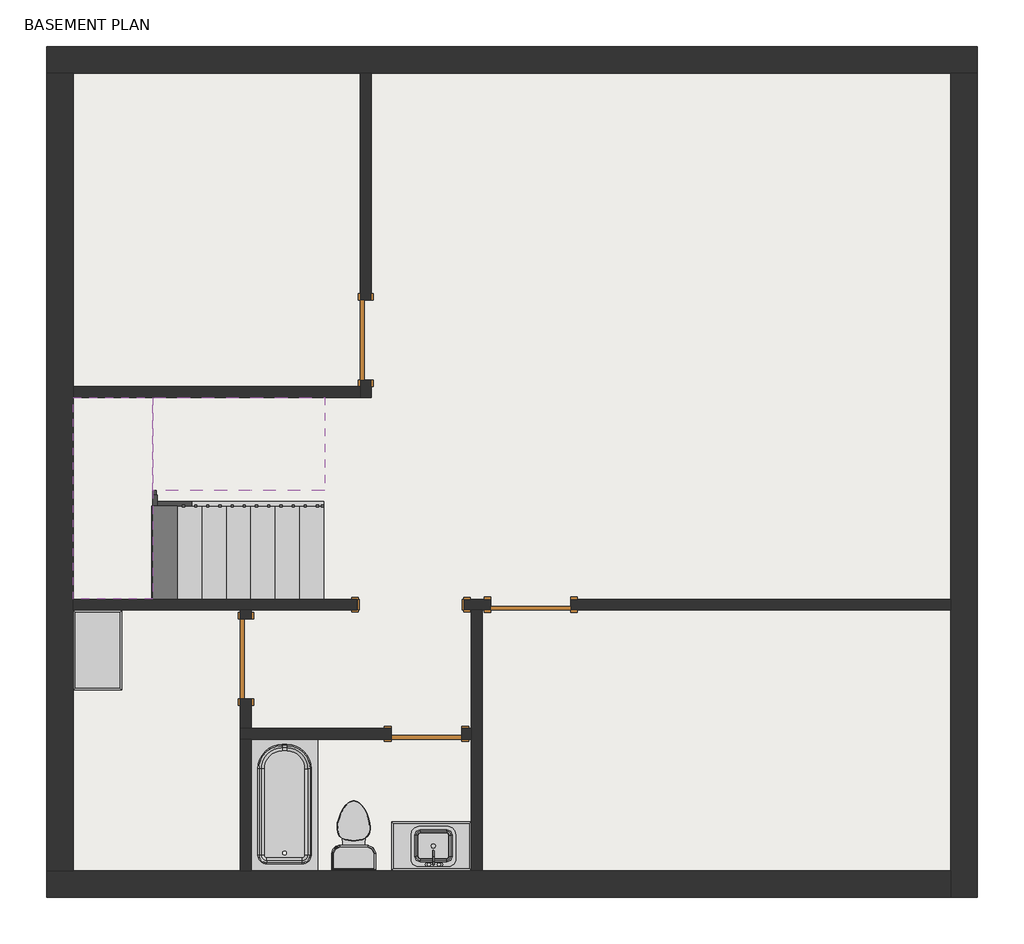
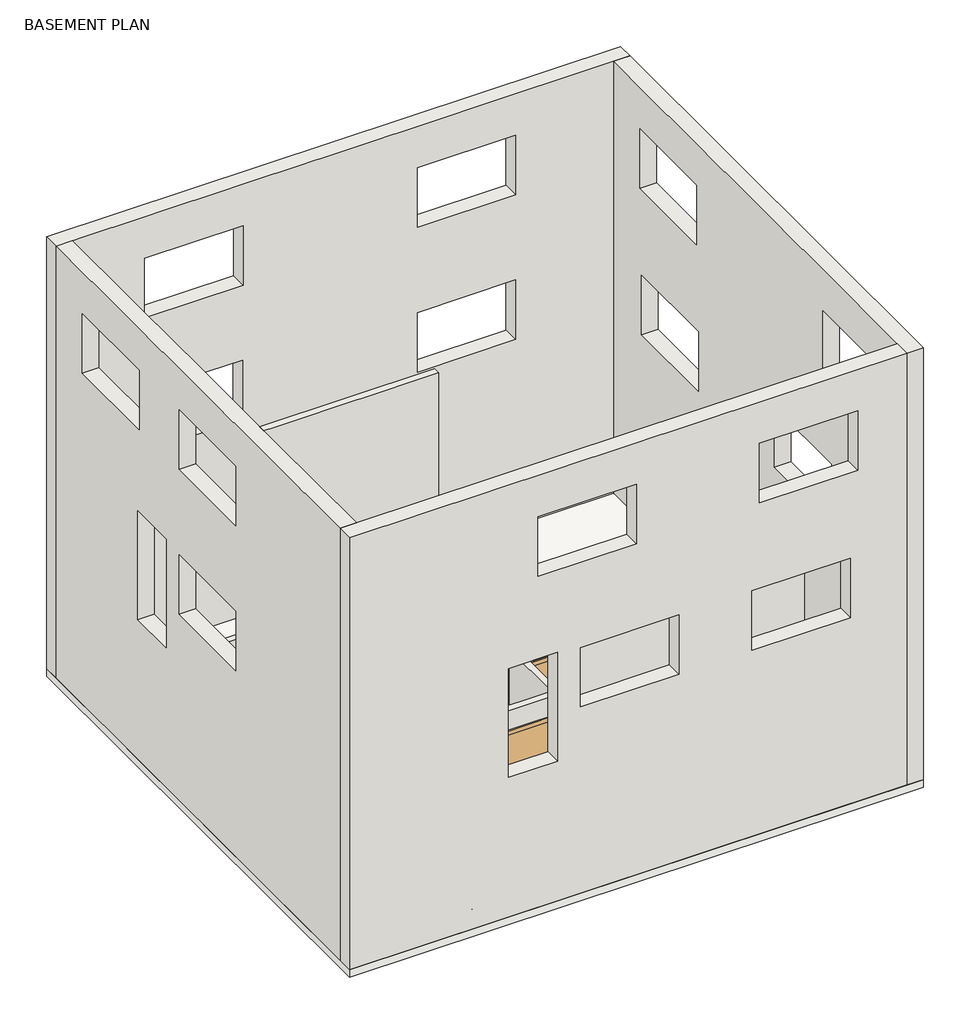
# One storey, incomplete: 13 walls, 5 doors, 3 flow terminals, 3 members, 2 furniture elements, 2 slabs, 2 stair flights, 1 railing.
"""IFC4 building model written with IfcOpenShell, lengths in millimetres."""

from ifc_helpers import new_model, si_unit, frame, origin, place, context, project, spatial, polyline, outline, extrude, faceted_brep, transform, mapped, element, save
from components import door_9efeaa18, door_9ecb6357, m_single_flush_3_x_7_d4803db9, m_single_flush_3_x_7_38056b6e, flow_terminal_62a433f7, toilet_domestic_3d1_toilet_domestic_3d_f7549cf7, toilet_domestic_3d1_toilet_domestic_3d_183bbd19, tub_rectangular_3d_tub_rectangular_5_7cde22e7, sb02_sb2_36_93bd8c5c, sb02_sb2_36_312036f5, railing_1100mm_33f3b1c9, non_monolithic_landing_ebfebc9d, stair_flight_a305efe2, stair_flight_e66c2ff5

model = new_model("IFC4")

# Units and contexts
model_context = context("Model", 3, world=origin())
ifc_project = project(units=[si_unit("LENGTHUNIT", "METRE", prefix="MILLI")], contexts=[model_context])

# Site, building, storey
site = spatial("IfcSite", under=ifc_project)
building = spatial("IfcBuilding", under=site)
storey = spatial("IfcBuildingStorey", under=building, Name="BASEMENT PLAN", Elevation=-2743.2)

# Doors
placement = place(None, origin())
door_shape = door_9efeaa18(model_context)
element("IfcDoor", 1, ObjectType="M_Opening-Cased : 4'-0\"", at=placement, inside=storey, context=model_context, shape_type="MappedRepresentation", body=[
    mapped(door_shape, transform((15331.0618231, 7304.6490306, -2743.2), x_axis=(-1.0, 0.0, 0.0), y_axis=(0.0, -1.0, 0.0), z_axis=(0.0, 0.0, 1.0))),
])
door_2_shape = door_9ecb6357(model_context)
element("IfcDoor", 2, ObjectType="M_Single-Flush : 2'-8\"", at=placement, inside=storey, context=model_context, shape_type="MappedRepresentation", body=[
    mapped(door_2_shape, transform((15518.6615275, 5825.0990306, -2743.2), x_axis=(1.0, 0.0, 0.0), y_axis=(0.0, 1.0, 0.0), z_axis=(0.0, 0.0, 1.0))),
])
m_single_flush_3_x_7_shape = m_single_flush_3_x_7_d4803db9(model_context)
element("IfcDoor", 3, ObjectType="M_Single-Flush : 3' x 7'", at=placement, inside=storey, context=model_context, shape_type="MappedRepresentation", body=[
    mapped(m_single_flush_3_x_7_shape, transform((13448.5379798, 6683.9365306, -2743.2), x_axis=(0.0, 1.0, 0.0), y_axis=(-1.0, 0.0, 0.0), z_axis=(0.0, 0.0, 1.0))),
])
m_single_flush_3_x_7_2_shape = m_single_flush_3_x_7_38056b6e(model_context)
element("IfcDoor", 4, ObjectType="M_Single-Flush : 3' x 7'", at=placement, inside=storey, context=model_context, shape_type="MappedRepresentation", body=[
    mapped(m_single_flush_3_x_7_2_shape, transform((14821.7254798, 10338.3615306, -2743.2), x_axis=(0.0, -1.0, 0.0), y_axis=(1.0, 0.0, 0.0), z_axis=(0.0, 0.0, 1.0))),
])
element("IfcDoor", 5, ObjectType="M_Single-Flush : 3' x 7'", at=placement, inside=storey, context=model_context, shape_type="MappedRepresentation", body=[
    mapped(m_single_flush_3_x_7_shape, transform((16712.4379798, 7304.6490306, -2743.2), x_axis=(-1.0, 0.0, 0.0), y_axis=(0.0, -1.0, 0.0), z_axis=(0.0, 0.0, 1.0))),
])

# Flow terminals
flow_terminal_shape = flow_terminal_62a433f7(model_context)
element("IfcFlowTerminal", 6, ObjectType="Sink Vanity-Square : 20\" x 18\"", at=placement, inside=storey, context=model_context, shape_type="MappedRepresentation", body=[
    mapped(flow_terminal_shape, transform((15613.0155818, 4487.7944318, -2743.2), x_axis=(-1.0, 0.0, 0.0), y_axis=(0.0, -1.0, 0.0), z_axis=(0.0, 0.0, 1.0))),
])
toilet_domestic_3d1_toilet_domestic_3d_shape = toilet_domestic_3d1_toilet_domestic_3d_f7549cf7(model_context)
toilet_domestic_3d1_toilet_domestic_3d_2_shape = toilet_domestic_3d1_toilet_domestic_3d_183bbd19(model_context)
element("IfcFlowTerminal", 7, ObjectType="Toilet-Domestic-3D1 : Toilet-Domestic-3D", at=placement, inside=storey, context=model_context, shape_type="MappedRepresentation", body=[
    mapped(toilet_domestic_3d1_toilet_domestic_3d_shape, transform((14683.8939344, 4751.345058, -2743.2), x_axis=(-1.0, 0.0, 0.0), y_axis=(0.0, -1.0, 0.0), z_axis=(0.0, 0.0, 1.0))),
    mapped(toilet_domestic_3d1_toilet_domestic_3d_2_shape, transform((14683.8939344, 4751.345058, -2743.2), x_axis=(-1.0, 0.0, 0.0), y_axis=(0.0, -1.0, 0.0), z_axis=(0.0, 0.0, 1.0))),
])
tub_rectangular_3d_tub_rectangular_5_shape = tub_rectangular_3d_tub_rectangular_5_7cde22e7(model_context)
element("IfcFlowTerminal", 8, ObjectType="Tub-Rectangular-3D : Tub-Rectangular- 5'", at=placement, inside=storey, context=model_context, shape_type="MappedRepresentation", body=[
    mapped(tub_rectangular_3d_tub_rectangular_5_shape, transform((13448.5379798, 5367.2519993, -2743.2), x_axis=(0.0, 1.0, 0.0), y_axis=(-1.0, 0.0, 0.0), z_axis=(0.0, 0.0, 1.0))),
])

# Furniture
sb02_sb2_36_shape = sb02_sb2_36_93bd8c5c(model_context)
element("IfcFurniture", 9, ObjectType="SB02 : SB2-36", at=placement, inside=storey, context=model_context, shape_type="MappedRepresentation", body=[
    mapped(sb02_sb2_36_shape, transform((12027.9254798, 6804.2742356, -2743.2), x_axis=(0.0, -1.0, 0.0), y_axis=(1.0, 0.0, 0.0), z_axis=(0.0, 0.0, 1.0))),
])
sb02_sb2_36_2_shape = sb02_sb2_36_312036f5(model_context)
element("IfcFurniture", 10, ObjectType="SB02 : SB2-36", at=placement, inside=storey, context=model_context, shape_type="MappedRepresentation", body=[
    mapped(sb02_sb2_36_2_shape, transform((15595.0640462, 4815.6490306, -2743.2), x_axis=(-1.0, 0.0, 0.0), y_axis=(0.0, -1.0, 0.0), z_axis=(0.0, 0.0, 1.0))),
])

# Members
element("IfcMember", 11, ObjectType="Stringer - 2\" Width", at=placement, inside=storey, context=model_context, shape_type="SweptSolid", body=[
    extrude(outline(polyline([(-2743.2, 14339.1254798), (-2501.4287172, 14339.1254798), (-1295.5701314, 12434.1254798), (-1776.5466754, 12434.1254798), (-2743.2, 13961.2320618), (-2743.2, 14339.1254798)])), frame((0.0, 8436.5365306, 0.0), z_axis=(0.0, 1.0, 0.0), x_axis=(0.0, 0.0, 1.0)), (0.0, 0.0, 1.0), 50.8),
])
element("IfcMember", 12, ObjectType="Stringer - 2\" Width", at=placement, inside=storey, context=model_context, shape_type="SweptSolid", body=[
    extrude(outline(polyline([(-1086.5546432, 12383.3254798), (-1567.5311872, 12383.3254798), (-329.5163724, 14339.1254798), (151.4601717, 14339.1254798), (-1086.5546432, 12383.3254798)])), frame((0.0, 8563.5365306, 0.0), z_axis=(0.0, 1.0, 0.0), x_axis=(0.0, 0.0, 1.0)), (0.0, 0.0, 1.0), 50.8),
])
element("IfcMember", 13, ObjectType="Stringer - 2\" Width", at=placement, inside=storey, context=model_context, shape_type="SweptSolid", body=[
    extrude(outline(polyline([(12434.1254798, 8436.5365306), (12383.3254798, 8436.5365306), (12383.3254798, 8563.5365306), (12434.1254798, 8563.5365306), (12434.1254798, 8436.5365306)])), frame((0.0, 0.0, -1683.9259259), z_axis=(0.0, 0.0, 1.0), x_axis=(1.0, 0.0, 0.0)), (0.0, 0.0, 1.0), 406.4),
])

# Railing
railing_1100mm_shape = railing_1100mm_33f3b1c9(model_context)
element("IfcRailing", 14, ObjectType="1100mm", at=placement, inside=storey, context=model_context, shape_type="MappedRepresentation", body=[
    mapped(railing_1100mm_shape, transform((0.0, 0.0, 0.0), x_axis=(1.0, 0.0, 0.0), y_axis=(0.0, 1.0, 0.0), z_axis=(0.0, 0.0, 1.0))),
])

# Slabs
element("IfcSlab", 15, ObjectType="MultiFamilyGeneric", at=placement, inside=storey, context=model_context, shape_type="SweptSolid", body=[
    extrude(outline(polyline([(21832.1254798, 13705.4490306), (21832.1254798, 3951.8490306), (11164.1254798, 3951.8490306), (11164.1254798, 13705.4490306), (21832.1254798, 13705.4490306)])), frame((0.0, 0.0, -2895.6), z_axis=(0.0, 0.0, 1.0), x_axis=(1.0, 0.0, 0.0)), (0.0, 0.0, 1.0), 152.4),
])
non_monolithic_landing_shape = non_monolithic_landing_ebfebc9d(model_context)
element("IfcSlab", 16, ObjectType="Non-Monolithic Landing", at=placement, inside=storey, context=model_context, shape_type="MappedRepresentation", body=[
    mapped(non_monolithic_landing_shape, transform((0.0, 0.0, 0.0), x_axis=(1.0, 0.0, 0.0), y_axis=(0.0, 1.0, 0.0), z_axis=(0.0, 0.0, 1.0))),
])

# Stair flights
stair_flight_shape = stair_flight_a305efe2(model_context)
element("IfcStairFlight", 17, ObjectType="2\" Tread 1/2\" Riser", at=placement, inside=storey, context=model_context, shape_type="MappedRepresentation", body=[
    mapped(stair_flight_shape, transform((0.0, 0.0, 0.0), x_axis=(1.0, 0.0, 0.0), y_axis=(0.0, 1.0, 0.0), z_axis=(0.0, 0.0, 1.0))),
])
stair_flight_2_shape = stair_flight_e66c2ff5(model_context)
element("IfcStairFlight", 18, ObjectType="2\" Tread 1/2\" Riser", at=placement, inside=storey, context=model_context, shape_type="MappedRepresentation", body=[
    mapped(stair_flight_2_shape, transform((0.0, 0.0, 0.0), x_axis=(1.0, 0.0, 0.0), y_axis=(0.0, 1.0, 0.0), z_axis=(0.0, 0.0, 1.0))),
])

# Walls
element("IfcWall", 19, ObjectType="Generic - 4 7/8\"", at=placement, inside=storey, context=model_context, shape_type="Brep", body=[
    faceted_brep([(14883.6379798, 9681.1365306, -2743.2), (14883.6379798, 9881.1615306, -2743.2), (14883.6379798, 9881.1615306, -609.6), (14883.6379798, 10795.5615306, -609.6), (14883.6379798, 10795.5615306, -2743.2), (14883.6379798, 13400.6490306, -2743.2), (14883.6379798, 13400.6490306, -152.4), (14883.6379798, 9681.1365306, -152.4), (14759.8129798, 9881.1615306, -609.6), (14759.8129798, 9881.1615306, -2743.2), (14759.8129798, 9804.9615306, -2743.2), (14759.8129798, 9681.1365306, -2743.2), (14759.8129798, 9681.1365306, -152.4), (14759.8129798, 9804.9615306, -152.4), (14759.8129798, 13400.6490306, -152.4), (14759.8129798, 13400.6490306, -2743.2), (14759.8129798, 10795.5615306, -2743.2), (14759.8129798, 10795.5615306, -609.6)], [[[0, 1, 2, 3, 4, 5, 6, 7]], [[8, 9, 10, 11, 12, 13, 14, 15, 16, 17]], [[16, 15, 5, 4]], [[11, 10, 9, 1, 0]], [[6, 5, 15, 14]], [[0, 7, 12, 11]], [[2, 1, 9, 8]], [[3, 2, 8, 17]], [[4, 3, 17, 16]], [[7, 6, 14, 13, 12]]]),
])
element("IfcWall", 20, ObjectType="Generic - 4 7/8\"", at=placement, inside=storey, context=model_context, shape_type="Brep", body=[
    faceted_brep([(21527.3254798, 7242.7365306, -2743.2), (21527.3254798, 7242.7365306, -152.4), (16157.3513413, 7242.7365306, -152.4), (16033.5263413, 7242.7365306, -152.4), (15649.3277936, 7242.7365306, -152.4), (15649.3277936, 7242.7365306, -609.6), (15948.8504798, 7242.7365306, -609.6), (15948.8504798, 7242.7365306, -2743.2), (16033.5263413, 7242.7365306, -2743.2), (16157.3513413, 7242.7365306, -2743.2), (16255.2379798, 7242.7365306, -2743.2), (16255.2379798, 7242.7365306, -609.6), (17169.6379798, 7242.7365306, -609.6), (17169.6379798, 7242.7365306, -2743.2), (21527.3254798, 7366.5615306, -152.4), (21527.3254798, 7366.5615306, -2743.2), (17169.6379798, 7366.5615306, -2743.2), (17169.6379798, 7366.5615306, -609.6), (16255.2379798, 7366.5615306, -609.6), (16255.2379798, 7366.5615306, -2743.2), (15948.8504798, 7366.5615306, -2743.2), (15948.8504798, 7366.5615306, -609.6), (15649.3277936, 7366.5615306, -609.6), (15649.3277936, 7366.5615306, -152.4)], [[[0, 1, 2, 3, 4, 5, 6, 7, 8, 9, 10, 11, 12, 13]], [[14, 15, 16, 17, 18, 19, 20, 21, 22, 23]], [[15, 0, 13, 16]], [[19, 10, 9, 8, 7, 20]], [[4, 23, 22, 5]], [[1, 0, 15, 14]], [[11, 10, 19, 18]], [[12, 11, 18, 17]], [[13, 12, 17, 16]], [[6, 21, 20, 7]], [[21, 6, 5, 22]], [[4, 3, 2, 1, 14, 23]]]),
])
element("IfcWall", 21, ObjectType="Generic - 4 7/8\"", at=placement, inside=storey, context=model_context, shape_type="Brep", body=[
    faceted_brep([(11468.9254798, 9681.1365306, -2743.2), (14759.8129798, 9681.1365306, -2743.2), (14759.8129798, 9681.1365306, -152.4), (14339.1254798, 9681.1365306, -152.4), (11468.9254798, 9681.1365306, -152.4), (11468.9254798, 9804.9615306, -2743.2), (11468.9254798, 9804.9615306, -152.4), (14759.8129798, 9804.9615306, -152.4), (14759.8129798, 9804.9615306, -2743.2)], [[[0, 1, 2, 3, 4]], [[5, 6, 7, 8]], [[1, 0, 5, 8]], [[0, 4, 6, 5]], [[2, 1, 8, 7]], [[4, 3, 2, 7, 6]]]),
])
element("IfcWall", 22, ObjectType="Generic - 4 7/8\"", at=placement, inside=storey, context=model_context, shape_type="Brep", body=[
    faceted_brep([(15925.0615275, 5763.1865306, -609.6), (15925.0615275, 5763.1865306, -2743.2), (16033.5263413, 5763.1865306, -2743.2), (16033.5263413, 5763.1865306, -152.4), (13510.4504798, 5763.1865306, -152.4), (13386.6254798, 5763.1865306, -152.4), (13386.6254798, 5763.1865306, -2743.2), (13510.4504798, 5763.1865306, -2743.2), (15112.2615275, 5763.1865306, -2743.2), (15112.2615275, 5763.1865306, -609.6), (16033.5263413, 5887.0115306, -2743.2), (15925.0615275, 5887.0115306, -2743.2), (15925.0615275, 5887.0115306, -609.6), (15112.2615275, 5887.0115306, -609.6), (15112.2615275, 5887.0115306, -2743.2), (13510.4504798, 5887.0115306, -2743.2), (13386.6254798, 5887.0115306, -2743.2), (13386.6254798, 5887.0115306, -152.4), (13510.4504798, 5887.0115306, -152.4), (16033.5263413, 5887.0115306, -152.4)], [[[0, 1, 2, 3, 4, 5, 6, 7, 8, 9]], [[10, 11, 12, 13, 14, 15, 16, 17, 18, 19]], [[2, 1, 11, 10]], [[8, 7, 6, 16, 15, 14]], [[12, 11, 1, 0]], [[13, 12, 0, 9]], [[14, 13, 9, 8]], [[3, 2, 10, 19]], [[6, 5, 17, 16]], [[5, 4, 3, 19, 18, 17]]]),
])
element("IfcWall", 23, ObjectType="Generic - 4 7/8\"", at=placement, inside=storey, context=model_context, shape_type="Brep", body=[
    faceted_brep([(16033.5263413, 7242.7365306, -2743.2), (16033.5263413, 5887.0115306, -2743.2), (16033.5263413, 5763.1865306, -2743.2), (16033.5263413, 4256.6490306, -2743.2), (16033.5263413, 4256.6490306, -152.4), (16033.5263413, 5763.1865306, -152.4), (16033.5263413, 5887.0115306, -152.4), (16033.5263413, 7242.7365306, -152.4), (16157.3513413, 7242.7365306, -2743.2), (16157.3513413, 7242.7365306, -152.4), (16157.3513413, 4256.6490306, -152.4), (16157.3513413, 4256.6490306, -2743.2)], [[[0, 1, 2, 3, 4, 5, 6, 7]], [[8, 9, 10, 11]], [[3, 2, 1, 0, 8, 11]], [[4, 3, 11, 10]], [[0, 7, 9, 8]], [[7, 6, 5, 4, 10, 9]]]),
])
element("IfcWall", 24, ObjectType="Generic - Exterior wall 12\"", at=placement, inside=storey, context=model_context, shape_type="Brep", body=[
    faceted_brep([(21527.3254798, 13400.6490306, -2743.2), (21527.3254798, 7366.5615306, -2743.2), (21527.3254798, 7242.7365306, -2743.2), (21527.3254798, 4256.6490306, -2743.2), (21527.3254798, 3951.8490306, -2743.2), (21527.3254798, 3951.8490306, 5740.4), (21527.3254798, 4256.6490306, 5740.4), (21527.3254798, 7242.7365306, 5740.4), (21527.3254798, 7366.5615306, 5740.4), (21527.3254798, 9754.1615306, 5740.4), (21527.3254798, 9877.9865306, 5740.4), (21527.3254798, 13400.6490306, 5740.4), (21527.3254798, 6390.2490306, 2082.8), (21527.3254798, 6390.2490306, 914.4), (21527.3254798, 8219.0490306, 914.4), (21527.3254798, 8219.0490306, 2082.8), (21527.3254798, 10672.5042158, 2082.8), (21527.3254798, 10672.5042158, 914.4), (21527.3254798, 12501.3042158, 914.4), (21527.3254798, 12501.3042158, 2082.8), (21527.3254798, 6664.0927806, 4927.6), (21527.3254798, 4835.2927806, 4927.6), (21527.3254798, 4835.2927806, 3759.2), (21527.3254798, 6664.0927806, 3759.2), (21527.3254798, 12553.7177806, 4927.6), (21527.3254798, 10724.9177806, 4927.6), (21527.3254798, 10724.9177806, 3759.2), (21527.3254798, 12553.7177806, 3759.2), (21832.1254798, 13400.6490306, -2743.2), (21832.1254798, 13400.6490306, 5740.4), (21832.1254798, 3951.8490306, 5740.4), (21832.1254798, 3951.8490306, -2743.2), (21832.1254798, 6390.2490306, 2082.8), (21832.1254798, 8219.0490306, 2082.8), (21832.1254798, 8219.0490306, 914.4), (21832.1254798, 6390.2490306, 914.4), (21832.1254798, 10672.5042158, 2082.8), (21832.1254798, 12501.3042158, 2082.8), (21832.1254798, 12501.3042158, 914.4), (21832.1254798, 10672.5042158, 914.4), (21832.1254798, 6664.0927806, 4927.6), (21832.1254798, 6664.0927806, 3759.2), (21832.1254798, 4835.2927806, 3759.2), (21832.1254798, 4835.2927806, 4927.6), (21832.1254798, 12553.7177806, 4927.6), (21832.1254798, 12553.7177806, 3759.2), (21832.1254798, 10724.9177806, 3759.2), (21832.1254798, 10724.9177806, 4927.6)], [[[0, 1, 2, 3, 4, 5, 6, 7, 8, 9, 10, 11], [12, 13, 14, 15], [16, 17, 18, 19], [20, 21, 22, 23], [24, 25, 26, 27]], [[28, 29, 30, 31], [32, 33, 34, 35], [36, 37, 38, 39], [40, 41, 42, 43], [44, 45, 46, 47]], [[4, 3, 2, 1, 0, 28, 31]], [[5, 4, 31, 30]], [[0, 11, 29, 28]], [[13, 12, 32, 35]], [[14, 13, 35, 34]], [[15, 14, 34, 33]], [[12, 15, 33, 32]], [[17, 16, 36, 39]], [[18, 17, 39, 38]], [[19, 18, 38, 37]], [[16, 19, 37, 36]], [[11, 10, 9, 8, 7, 6, 5, 30, 29]], [[41, 40, 20, 23]], [[42, 41, 23, 22]], [[43, 42, 22, 21]], [[40, 43, 21, 20]], [[45, 44, 24, 27]], [[46, 45, 27, 26]], [[47, 46, 26, 25]], [[44, 47, 25, 24]]]),
])
element("IfcWall", 25, ObjectType="Generic - Exterior wall 12\"", at=placement, inside=storey, context=model_context, shape_type="Brep", body=[
    faceted_brep([(21527.3254798, 4256.6490306, -2743.2), (16157.3513413, 4256.6490306, -2743.2), (16033.5263413, 4256.6490306, -2743.2), (13510.4504798, 4256.6490306, -2743.2), (13386.6254798, 4256.6490306, -2743.2), (11468.9254798, 4256.6490306, -2743.2), (11164.1254798, 4256.6490306, -2743.2), (11164.1254798, 4256.6490306, 5740.4), (11468.9254798, 4256.6490306, 5740.4), (21527.3254798, 4256.6490306, 5740.4), (15034.4504798, 4256.6490306, 0.0), (15034.4504798, 4256.6490306, 2133.6), (14120.0504798, 4256.6490306, 2133.6), (14120.0504798, 4256.6490306, 0.0), (18645.7745426, 4256.6490306, 2082.8), (18645.7745426, 4256.6490306, 914.4), (20474.5745426, 4256.6490306, 914.4), (20474.5745426, 4256.6490306, 2082.8), (15456.0080449, 4256.6490306, 2082.8), (15456.0080449, 4256.6490306, 914.4), (17284.8080449, 4256.6490306, 914.4), (17284.8080449, 4256.6490306, 2082.8), (20612.9254798, 4256.6490306, 4927.6), (18784.1254798, 4256.6490306, 4927.6), (18784.1254798, 4256.6490306, 3759.2), (20612.9254798, 4256.6490306, 3759.2), (16494.077093, 4256.6490306, 4927.6), (14665.277093, 4256.6490306, 4927.6), (14665.277093, 4256.6490306, 3759.2), (16494.077093, 4256.6490306, 3759.2), (21527.3254798, 3951.8490306, -2743.2), (21527.3254798, 3951.8490306, 5740.4), (11164.1254798, 3951.8490306, 5740.4), (11164.1254798, 3951.8490306, -2743.2), (15034.4504798, 3951.8490306, 0.0), (14120.0504798, 3951.8490306, 0.0), (14120.0504798, 3951.8490306, 2133.6), (15034.4504798, 3951.8490306, 2133.6), (18645.7745426, 3951.8490306, 2082.8), (20474.5745426, 3951.8490306, 2082.8), (20474.5745426, 3951.8490306, 914.4), (18645.7745426, 3951.8490306, 914.4), (15456.0080449, 3951.8490306, 2082.8), (17284.8080449, 3951.8490306, 2082.8), (17284.8080449, 3951.8490306, 914.4), (15456.0080449, 3951.8490306, 914.4), (20612.9254798, 3951.8490306, 4927.6), (20612.9254798, 3951.8490306, 3759.2), (18784.1254798, 3951.8490306, 3759.2), (18784.1254798, 3951.8490306, 4927.6), (16494.077093, 3951.8490306, 4927.6), (16494.077093, 3951.8490306, 3759.2), (14665.277093, 3951.8490306, 3759.2), (14665.277093, 3951.8490306, 4927.6)], [[[0, 1, 2, 3, 4, 5, 6, 7, 8, 9], [10, 11, 12, 13], [14, 15, 16, 17], [18, 19, 20, 21], [22, 23, 24, 25], [26, 27, 28, 29]], [[30, 31, 32, 33], [34, 35, 36, 37], [38, 39, 40, 41], [42, 43, 44, 45], [46, 47, 48, 49], [50, 51, 52, 53]], [[6, 5, 4, 3, 2, 1, 0, 30, 33]], [[0, 9, 31, 30]], [[35, 34, 10, 13]], [[36, 35, 13, 12]], [[37, 36, 12, 11]], [[34, 37, 11, 10]], [[15, 14, 38, 41]], [[16, 15, 41, 40]], [[17, 16, 40, 39]], [[14, 17, 39, 38]], [[19, 18, 42, 45]], [[20, 19, 45, 44]], [[21, 20, 44, 43]], [[18, 21, 43, 42]], [[7, 6, 33, 32]], [[9, 8, 7, 32, 31]], [[47, 46, 22, 25]], [[48, 47, 25, 24]], [[49, 48, 24, 23]], [[46, 49, 23, 22]], [[51, 50, 26, 29]], [[52, 51, 29, 28]], [[53, 52, 28, 27]], [[50, 53, 27, 26]]]),
])
element("IfcWall", 26, ObjectType="Generic - Exterior wall 12\"", at=placement, inside=storey, context=model_context, shape_type="Brep", body=[
    faceted_brep([(11468.9254798, 4256.6490306, -2743.2), (11468.9254798, 7242.7365306, -2743.2), (11468.9254798, 7366.5615306, -2743.2), (11468.9254798, 9681.1365306, -2743.2), (11468.9254798, 9804.9615306, -2743.2), (11468.9254798, 13400.6490306, -2743.2), (11468.9254798, 13400.6490306, 5740.4), (11468.9254798, 9804.9615306, 5740.4), (11468.9254798, 9681.1365306, 5740.4), (11468.9254798, 7366.5615306, 5740.4), (11468.9254798, 7242.7365306, 5740.4), (11468.9254798, 6925.2365306, 5740.4), (11468.9254798, 6836.3365306, 5740.4), (11468.9254798, 4256.6490306, 5740.4), (11468.9254798, 10770.1615306, 0.0), (11468.9254798, 9855.7615306, 0.0), (11468.9254798, 9855.7615306, 2133.6), (11468.9254798, 10770.1615306, 2133.6), (11468.9254798, 10724.9177806, 4927.6), (11468.9254798, 12553.7177806, 4927.6), (11468.9254798, 12553.7177806, 3759.2), (11468.9254798, 10724.9177806, 3759.2), (11468.9254798, 9438.2490306, 2082.8), (11468.9254798, 9438.2490306, 914.4), (11468.9254798, 7609.4490306, 914.4), (11468.9254798, 7609.4490306, 2082.8), (11468.9254798, 9438.2490306, 4927.6), (11468.9254798, 9438.2490306, 3759.2), (11468.9254798, 7609.4490306, 3759.2), (11468.9254798, 7609.4490306, 4927.6), (11164.1254798, 4256.6490306, -2743.2), (11164.1254798, 4256.6490306, 5740.4), (11164.1254798, 13400.6490306, 5740.4), (11164.1254798, 13400.6490306, -2743.2), (11164.1254798, 10770.1615306, 0.0), (11164.1254798, 10770.1615306, 2133.6), (11164.1254798, 9855.7615306, 2133.6), (11164.1254798, 9855.7615306, 0.0), (11164.1254798, 10724.9177806, 4927.6), (11164.1254798, 10724.9177806, 3759.2), (11164.1254798, 12553.7177806, 3759.2), (11164.1254798, 12553.7177806, 4927.6), (11164.1254798, 9438.2490306, 2082.8), (11164.1254798, 7609.4490306, 2082.8), (11164.1254798, 7609.4490306, 914.4), (11164.1254798, 9438.2490306, 914.4), (11164.1254798, 9438.2490306, 4927.6), (11164.1254798, 7609.4490306, 4927.6), (11164.1254798, 7609.4490306, 3759.2), (11164.1254798, 9438.2490306, 3759.2)], [[[0, 1, 2, 3, 4, 5, 6, 7, 8, 9, 10, 11, 12, 13], [14, 15, 16, 17], [18, 19, 20, 21], [22, 23, 24, 25], [26, 27, 28, 29]], [[30, 31, 32, 33], [34, 35, 36, 37], [38, 39, 40, 41], [42, 43, 44, 45], [46, 47, 48, 49]], [[5, 4, 3, 2, 1, 0, 30, 33]], [[15, 14, 34, 37]], [[16, 15, 37, 36]], [[17, 16, 36, 35]], [[14, 17, 35, 34]], [[0, 13, 31, 30]], [[6, 5, 33, 32]], [[13, 12, 11, 10, 9, 8, 7, 6, 32, 31]], [[39, 38, 18, 21]], [[40, 39, 21, 20]], [[41, 40, 20, 19]], [[38, 41, 19, 18]], [[23, 22, 42, 45]], [[24, 23, 45, 44]], [[25, 24, 44, 43]], [[22, 25, 43, 42]], [[27, 26, 46, 49]], [[28, 27, 49, 48]], [[29, 28, 48, 47]], [[26, 29, 47, 46]]]),
])
element("IfcWall", 27, ObjectType="Generic - Exterior wall 12\"", at=placement, inside=storey, context=model_context, shape_type="Brep", body=[
    faceted_brep([(11164.1254798, 13400.6490306, 5740.4), (11164.1254798, 13400.6490306, 2692.4), (11164.1254798, 13400.6490306, 0.0), (11164.1254798, 13400.6490306, -2743.2), (11468.9254798, 13400.6490306, -2743.2), (14759.8129798, 13400.6490306, -2743.2), (14883.6379798, 13400.6490306, -2743.2), (21527.3254798, 13400.6490306, -2743.2), (21832.1254798, 13400.6490306, -2743.2), (21832.1254798, 13400.6490306, 5740.4), (21527.3254798, 13400.6490306, 5740.4), (16102.8379798, 13400.6490306, 5740.4), (15979.0129798, 13400.6490306, 5740.4), (11468.9254798, 13400.6490306, 5740.4), (14629.4379803, 13400.6490306, 2286.0), (14629.4379803, 13400.6490306, 1117.6), (13715.0379803, 13400.6490306, 1117.6), (13715.0379803, 13400.6490306, 2286.0), (17880.6737197, 13400.6490306, 2082.8), (19709.4737197, 13400.6490306, 2082.8), (19709.4737197, 13400.6490306, 914.4), (17880.6737197, 13400.6490306, 914.4), (17880.6737197, 13400.6490306, 4927.6), (19709.4737197, 13400.6490306, 4927.6), (19709.4737197, 13400.6490306, 3759.2), (17880.6737197, 13400.6490306, 3759.2), (12809.5692298, 13400.6490306, 4927.6), (14638.3692298, 13400.6490306, 4927.6), (14638.3692298, 13400.6490306, 3759.2), (12809.5692298, 13400.6490306, 3759.2), (11164.1254798, 13705.4490306, -2743.2), (11164.1254798, 13705.4490306, 0.0), (11164.1254798, 13705.4490306, 2692.4), (11164.1254798, 13705.4490306, 5740.4), (21832.1254798, 13705.4490306, 5740.4), (21832.1254798, 13705.4490306, -2743.2), (14629.4379803, 13705.4490306, 2286.0), (13715.0379803, 13705.4490306, 2286.0), (13715.0379803, 13705.4490306, 1117.6), (14629.4379803, 13705.4490306, 1117.6), (17880.6737197, 13705.4490306, 2082.8), (17880.6737197, 13705.4490306, 914.4), (19709.4737197, 13705.4490306, 914.4), (19709.4737197, 13705.4490306, 2082.8), (17880.6737197, 13705.4490306, 4927.6), (17880.6737197, 13705.4490306, 3759.2), (19709.4737197, 13705.4490306, 3759.2), (19709.4737197, 13705.4490306, 4927.6), (12809.5692298, 13705.4490306, 4927.6), (12809.5692298, 13705.4490306, 3759.2), (14638.3692298, 13705.4490306, 3759.2), (14638.3692298, 13705.4490306, 4927.6)], [[[0, 1, 2, 3, 4, 5, 6, 7, 8, 9, 10, 11, 12, 13], [14, 15, 16, 17], [18, 19, 20, 21], [22, 23, 24, 25], [26, 27, 28, 29]], [[30, 31, 32, 33, 34, 35], [36, 37, 38, 39], [40, 41, 42, 43], [44, 45, 46, 47], [48, 49, 50, 51]], [[8, 7, 6, 5, 4, 3, 30, 35]], [[9, 8, 35, 34]], [[14, 17, 37, 36]], [[17, 16, 38, 37]], [[16, 15, 39, 38]], [[15, 14, 36, 39]], [[40, 43, 19, 18]], [[43, 42, 20, 19]], [[42, 41, 21, 20]], [[41, 40, 18, 21]], [[0, 33, 32, 31, 30, 3, 2, 1]], [[0, 13, 12, 11, 10, 9, 34, 33]], [[45, 44, 22, 25]], [[46, 45, 25, 24]], [[47, 46, 24, 23]], [[44, 47, 23, 22]], [[49, 48, 26, 29]], [[50, 49, 29, 28]], [[51, 50, 28, 27]], [[48, 51, 27, 26]]]),
])
element("IfcWall", 28, ObjectType="Interior - 4 7/8\"", at=placement, inside=storey, context=model_context, shape_type="Brep", body=[
    faceted_brep([(11468.9254798, 7242.7365306, -2743.2), (13386.6254798, 7242.7365306, -2743.2), (13510.4504798, 7242.7365306, -2743.2), (14720.1254798, 7242.7365306, -2743.2), (14720.1254798, 7242.7365306, -152.4), (14720.1254798, 7242.7365306, 2844.8), (14720.1254798, 7242.7365306, 5740.4), (11761.0254798, 7242.7365306, 5740.4), (11672.1254798, 7242.7365306, 5740.4), (11468.9254798, 7242.7365306, 5740.4), (11468.9254798, 7366.5615306, -2743.2), (11468.9254798, 7366.5615306, 5740.4), (14720.1254798, 7366.5615306, 5740.4), (14720.1254798, 7366.5615306, -152.4), (14720.1254798, 7366.5615306, -2743.2)], [[[0, 1, 2, 3, 4, 5, 6, 7, 8, 9]], [[10, 11, 12, 13, 14]], [[3, 2, 1, 0, 10, 14]], [[6, 5, 4, 3, 14, 13, 12]], [[0, 9, 11, 10]], [[9, 8, 7, 6, 12, 11]]]),
])
element("IfcWall", 29, ObjectType="Interior - 4 7/8\"", at=placement, inside=storey, context=model_context, shape_type="SweptSolid", body=[
    extrude(outline(polyline([(13510.4504798, 5763.1865306), (13510.4504798, 4256.6490306), (13386.6254798, 4256.6490306), (13386.6254798, 5763.1865306), (13510.4504798, 5763.1865306)])), frame((0.0, 0.0, -2743.2), z_axis=(0.0, 0.0, 1.0), x_axis=(1.0, 0.0, 0.0)), (0.0, 0.0, 1.0), 2590.8),
])
element("IfcWall", 30, ObjectType="Interior - 4 7/8\"", at=placement, inside=storey, context=model_context, shape_type="SweptSolid", body=[
    extrude(outline(polyline([(7242.7365306, -2743.2), (7141.1365306, -2743.2), (7141.1365306, -609.6), (6226.7365306, -609.6), (6226.7365306, -2743.2), (5887.0115306, -2743.2), (5887.0115306, -152.4), (7242.7365306, -152.4), (7242.7365306, -2743.2)])), frame((13386.6254798, 0.0, 0.0), z_axis=(1.0, 0.0, 0.0), x_axis=(0.0, 1.0, 0.0)), (0.0, 0.0, 1.0), 123.825),
])
element("IfcWall", 31, ObjectType="Interior - 4 7/8\"", at=placement, inside=storey, context=model_context, shape_type="SweptSolid", body=[
    extrude(outline(polyline([(-152.4, 14720.1254798), (-2743.2, 14720.1254798), (-2743.2, 14729.6504798), (-609.6, 14729.6504798), (-609.6, 15649.3277936), (-152.4, 15649.3277936), (-152.4, 14720.1254798)])), frame((0.0, 7242.7365306, 0.0), z_axis=(0.0, 1.0, 0.0), x_axis=(0.0, 0.0, 1.0)), (0.0, 0.0, 1.0), 123.825),
])

save(model, "model.ifc")
